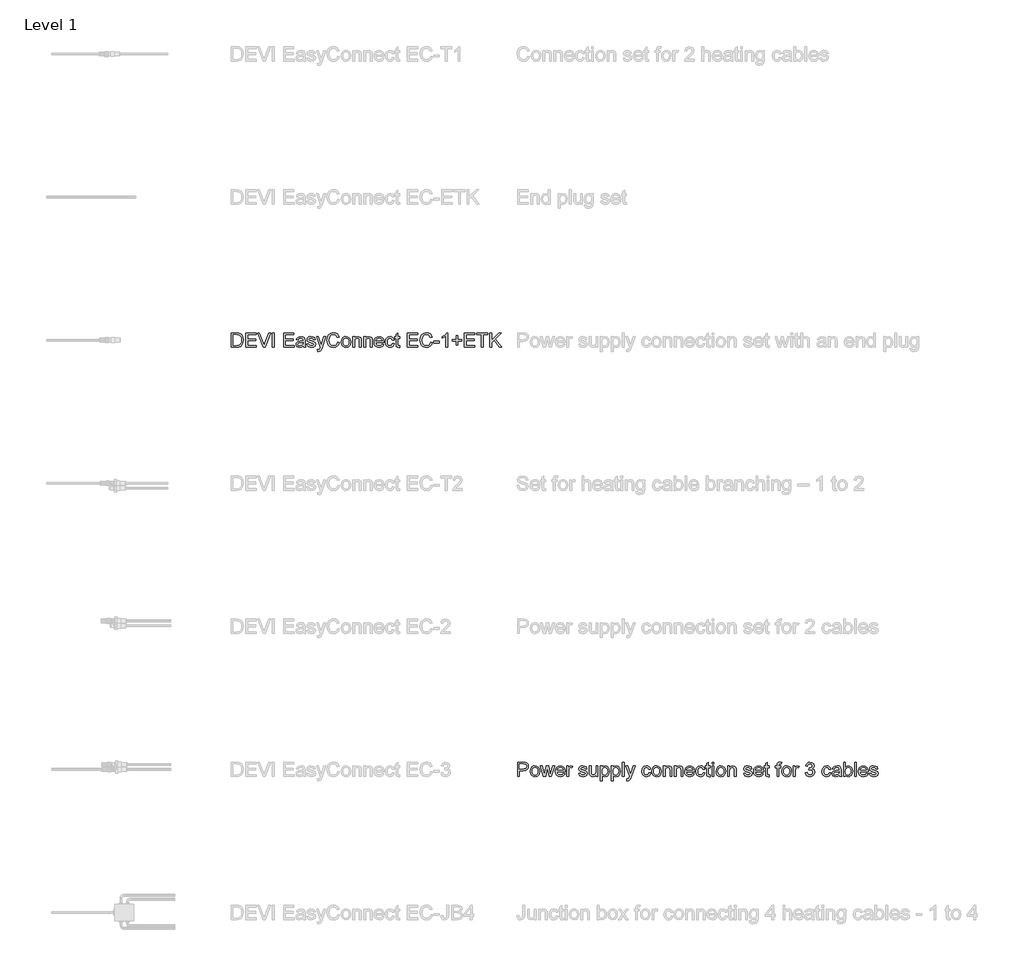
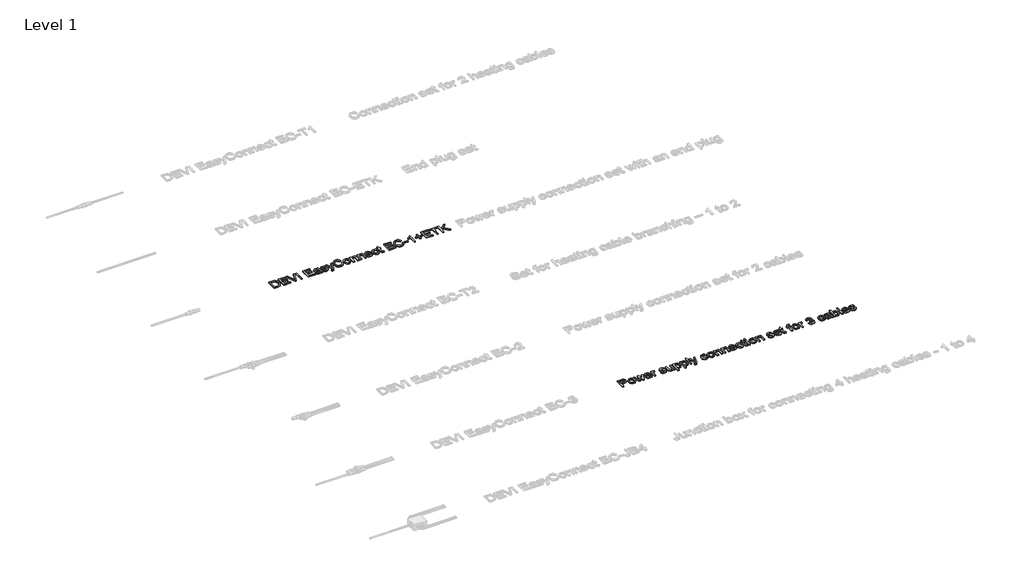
# One storey, part 4 of 11: 2 proxies.
"""IFC4 building model written with IfcOpenShell, lengths in millimetres."""

from ifc_helpers import new_model, si_unit, origin, origin_with_axes, place, context, project, spatial, polyline, outline, extrude, element, save

model = new_model("IFC4")

# Units and contexts
model_context = context("Model", 3, world=origin())
ifc_project = project(units=[si_unit("LENGTHUNIT", "METRE", prefix="MILLI")], contexts=[model_context])

# Site, building, storey
site = spatial("IfcSite", under=ifc_project)
building = spatial("IfcBuilding", under=site)
storey = spatial("IfcBuildingStorey", under=building, Name="Level 1", Elevation=0.0)

# Proxies
placement = place(None, origin())
element("IfcBuildingElementProxy", 1, Name="100mm Arial", ObjectType="100mm Arial", at=placement, inside=storey, context=model_context, shape_type="SweptSolid", body=[
    extrude(outline(polyline([(2544.9544754, 3516.7341496), (2544.9544754, 3617.1904598), (2579.6089593, 3617.1904598), (2597.5370752, 3615.7434572), (2612.3014059, 3608.5574956), (2624.1962571, 3591.3896692), (2628.1448572, 3567.5018649), (2625.4715814, 3547.231567), (2618.6044508, 3532.6021263), (2609.4319264, 3523.4909156), (2597.4267106, 3518.4509323), (2581.276691, 3516.7341496), (2544.9544754, 3516.7341496)]), holes=[polyline([(2557.5115141, 3529.2911884), (2579.7315866, 3529.2911884), (2595.893869, 3531.1060729), (2605.2135462, 3536.2318954), (2612.8532289, 3548.703095), (2615.5878184, 3567.6980687), (2614.2481148, 3581.3832789), (2610.229004, 3591.487771), (2597.1937187, 3602.6223328), (2579.3882301, 3604.633421), (2557.5115141, 3604.633421), (2557.5115141, 3529.2911884)])]), origin_with_axes(), (0.0, 0.0, 1.0), 10.0),
    extrude(outline(polyline([(2645.4107855, 3516.7341496), (2645.4107855, 3617.1904598), (2717.6137584, 3617.1904598), (2717.6137584, 3604.633421), (2657.9678243, 3604.633421), (2657.9678243, 3574.8104539), (2714.4744987, 3574.8104539), (2714.4744987, 3562.2534151), (2657.9678243, 3562.2534151), (2657.9678243, 3529.2911884), (2719.1833883, 3529.2911884), (2719.1833883, 3516.7341496), (2645.4107855, 3516.7341496)])), origin_with_axes(), (0.0, 0.0, 1.0), 10.0),
    extrude(outline(polyline([(2767.6947607, 3516.7341496), (2727.7182506, 3617.1904598), (2741.1582061, 3617.1904598), (2767.9154899, 3544.8158086), (2773.335618, 3528.5063735), (2778.6821696, 3544.8158086), (2805.5130298, 3617.1904598), (2818.9529854, 3617.1904598), (2780.6687324, 3516.7341496), (2767.6947607, 3516.7341496)])), origin_with_axes(), (0.0, 0.0, 1.0), 10.0),
    extrude(outline(polyline([(2832.1967372, 3516.7341496), (2832.1967372, 3617.1904598), (2844.753776, 3617.1904598), (2844.753776, 3516.7341496), (2832.1967372, 3516.7341496)])), origin_with_axes(), (0.0, 0.0, 1.0), 10.0),
    extrude(outline(polyline([(2909.1085996, 3516.7341496), (2909.1085996, 3617.1904598), (2981.3115726, 3617.1904598), (2981.3115726, 3604.633421), (2921.6656384, 3604.633421), (2921.6656384, 3574.8104539), (2978.1723129, 3574.8104539), (2978.1723129, 3562.2534151), (2921.6656384, 3562.2534151), (2921.6656384, 3529.2911884), (2982.8812024, 3529.2911884), (2982.8812024, 3516.7341496), (2909.1085996, 3516.7341496)])), origin_with_axes(), (0.0, 0.0, 1.0), 10.0),
    extrude(outline(polyline([(3047.2360261, 3526.1519287), (3035.0591321, 3517.6415919), (3021.6069138, 3515.1645198), (3011.1130799, 3516.6544418), (3003.3722295, 3521.1242081), (2998.5989607, 3527.9116309), (2997.007871, 3536.3545227), (2999.4113667, 3546.2873366), (3005.7266743, 3553.4978237), (3014.519054, 3557.618102), (3025.3838356, 3559.5065629), (3047.1624497, 3563.823045), (3047.2360261, 3566.6189482), (3043.7779353, 3575.8895744), (3029.8965214, 3579.5193435), (3017.1923298, 3577.103585), (3011.1345396, 3568.5319345), (2998.5775009, 3570.1015644), (3004.0098917, 3582.3642975), (3014.9482497, 3589.5502592), (3031.5152022, 3592.0763822), (3046.733254, 3589.8445648), (3055.32943, 3584.2404957), (3059.1799282, 3575.7178962), (3059.7930649, 3564.7304872), (3059.7930649, 3549.1077652), (3060.430727, 3527.2923629), (3062.9323246, 3516.7341496), (3050.3752858, 3516.7341496), (3047.2360261, 3526.1519287)]), holes=[polyline([(3047.2360261, 3551.2660062), (3026.9779909, 3547.415508), (3016.174523, 3545.3798943), (3011.2816924, 3542.0689563), (3009.5649098, 3537.2374395), (3013.3050434, 3530.4438853), (3024.2801896, 3527.7215585), (3036.9843812, 3530.7259282), (3045.1758869, 3537.9977289), (3047.1624497, 3547.7098136), (3047.2360261, 3551.2660062)])]), origin_with_axes(), (0.0, 0.0, 1.0), 10.0),
    extrude(outline(polyline([(3072.3501036, 3538.7089675), (3084.9071424, 3540.2785973), (3090.7196779, 3530.9589201), (3104.0370062, 3527.7215585), (3116.8392996, 3530.68914), (3121.0086289, 3537.6543724), (3116.8147741, 3543.2952297), (3103.8898534, 3546.8759477), (3084.9807188, 3553.0195771), (3076.7278994, 3560.193276), (3073.9197335, 3570.3222936), (3076.1760764, 3579.678759), (3082.3319684, 3586.8279324), (3090.3150077, 3590.5435406), (3101.1184757, 3592.0763822), (3116.3978412, 3589.6115729), (3126.1099259, 3582.940646), (3130.4264079, 3571.6711942), (3117.8693692, 3570.1015644), (3113.1482169, 3577.0300086), (3102.0994943, 3579.5193435), (3090.0820158, 3577.1403732), (3086.4767723, 3571.5976178), (3087.9728257, 3567.9433233), (3092.6571898, 3565.1719456), (3103.4729204, 3562.4986698), (3121.9038084, 3556.5880324), (3130.4631961, 3549.8925801), (3133.5656676, 3538.9787476), (3129.9236359, 3526.9612691), (3119.4144736, 3518.2424658), (3103.8653279, 3515.1645198), (3091.2040559, 3516.6483105), (3081.9640864, 3521.0996826), (3075.7959317, 3528.4695853), (3072.3501036, 3538.7089675)])), origin_with_axes(), (0.0, 0.0, 1.0), 10.0),
    extrude(outline(polyline([(3147.6923363, 3488.4808124), (3146.1227064, 3500.5718673), (3152.4993277, 3499.4682213), (3158.459016, 3500.8539102), (3162.1133105, 3504.7166711), (3165.5468758, 3513.9627719), (3166.5278944, 3517.0039297), (3139.844187, 3590.5067524), (3153.0879388, 3590.5067524), (3167.2391329, 3549.5492236), (3172.1687517, 3533.1662121), (3177.0983704, 3547.6362372), (3191.6419719, 3590.5067524), (3204.7876219, 3590.5067524), (3179.1094586, 3514.968316), (3172.4385318, 3498.5853045), (3165.1544683, 3489.7316112), (3155.3688072, 3486.9111825), (3147.6923363, 3488.4808124)])), origin_with_axes(), (0.0, 0.0, 1.0), 10.0),
    extrude(outline(polyline([(3287.3893926, 3552.4432286), (3299.9464313, 3549.2058671), (3294.1522899, 3534.5733607), (3285.0594733, 3523.883323), (3273.1155711, 3517.3442206), (3258.7681733, 3515.1645198), (3244.203112, 3516.8138574), (3232.6362889, 3521.7618702), (3223.7703329, 3529.83688), (3217.3078725, 3540.8672085), (3212.0471599, 3567.7225941), (3213.5340163, 3582.3704289), (3217.9945855, 3595.0194382), (3225.1958756, 3605.2680174), (3234.9048946, 3612.7145622), (3246.419601, 3617.2487077), (3259.0379535, 3618.7600896), (3272.8059371, 3616.8041837), (3284.1888192, 3610.9364658), (3292.8309804, 3601.5186868), (3298.3768015, 3588.9125971), (3285.8197627, 3585.9204902), (3275.5190668, 3601.3592712), (3258.5474441, 3606.2030508), (3238.9025456, 3600.8319737), (3227.8047721, 3586.4109995), (3224.6041987, 3567.7471196), (3228.3933833, 3546.1156583), (3240.1901326, 3532.295558), (3257.5173745, 3527.7215585), (3267.9989457, 3529.2789256), (3276.7330774, 3533.951027), (3283.3273622, 3541.6888116), (3287.3893926, 3552.4432286)])), origin_with_axes(), (0.0, 0.0, 1.0), 10.0),
    extrude(outline(polyline([(3312.5034701, 3553.620451), (3315.2196655, 3571.4075455), (3323.3682517, 3583.9094019), (3333.4359556, 3590.0346371), (3345.4902223, 3592.0763822), (3358.6818575, 3589.5901131), (3369.218611, 3582.1313056), (3376.1255955, 3570.2885711), (3378.4279236, 3554.6505206), (3374.3566962, 3532.3078207), (3362.4986332, 3519.6649428), (3345.4902223, 3515.1645198), (3332.1391716, 3517.6415919), (3321.6146808, 3525.0728082), (3314.7812728, 3537.1638631), (3312.5034701, 3553.620451)]), holes=[polyline([(3325.0605089, 3553.6449765), (3326.5136427, 3542.2804885), (3330.8730444, 3534.1840189), (3337.4336066, 3529.3371736), (3345.4902223, 3527.7215585), (3353.5100498, 3529.3463707), (3360.0583493, 3534.2208071), (3364.417751, 3542.4245756), (3365.8708849, 3554.0373839), (3364.4085539, 3565.0707781), (3360.0215611, 3573.0568831), (3353.4640646, 3577.9037284), (3345.4902223, 3579.5193435), (3337.4336066, 3577.9098597), (3330.8730444, 3573.0814085), (3326.5136427, 3565.0033331), (3325.0605089, 3553.6449765)])]), origin_with_axes(), (0.0, 0.0, 1.0), 10.0),
    extrude(outline(polyline([(3392.5545922, 3516.7341496), (3392.5545922, 3590.5067524), (3405.111631, 3590.5067524), (3405.111631, 3580.2060565), (3414.7133511, 3589.1088008), (3427.8222128, 3592.0763822), (3439.6802758, 3589.6851493), (3447.7736797, 3583.4066299), (3451.5383388, 3574.1727918), (3452.2005264, 3562.0326859), (3452.2005264, 3516.7341496), (3439.6434876, 3516.7341496), (3439.6434876, 3560.3404288), (3438.1964851, 3571.450465), (3433.0829254, 3577.3243142), (3424.462224, 3579.5193435), (3410.8383274, 3574.5897247), (3406.5433051, 3567.4466826), (3405.111631, 3555.8767939), (3405.111631, 3516.7341496), (3392.5545922, 3516.7341496)])), origin_with_axes(), (0.0, 0.0, 1.0), 10.0),
    extrude(outline(polyline([(3469.4664547, 3516.7341496), (3469.4664547, 3590.5067524), (3482.0234935, 3590.5067524), (3482.0234935, 3580.2060565), (3491.6252135, 3589.1088008), (3504.7340753, 3592.0763822), (3516.5921383, 3589.6851493), (3524.6855422, 3583.4066299), (3528.4502013, 3574.1727918), (3529.1123889, 3562.0326859), (3529.1123889, 3516.7341496), (3516.5553501, 3516.7341496), (3516.5553501, 3560.3404288), (3515.1083476, 3571.450465), (3509.9947878, 3577.3243142), (3501.3740864, 3579.5193435), (3487.7501899, 3574.5897247), (3483.4551676, 3567.4466826), (3482.0234935, 3555.8767939), (3482.0234935, 3516.7341496), (3469.4664547, 3516.7341496)])), origin_with_axes(), (0.0, 0.0, 1.0), 10.0),
    extrude(outline(polyline([(3598.0289493, 3538.7089675), (3610.3407334, 3537.1393376), (3605.9046897, 3527.86258), (3598.8260269, 3520.9280044), (3589.2641607, 3516.6053909), (3577.3785066, 3515.1645198), (3562.6448327, 3517.6507889), (3551.3079359, 3525.1095964), (3544.0790547, 3537.0565642), (3541.6694276, 3553.0073143), (3544.1035802, 3569.4945591), (3551.4060378, 3581.8247373), (3562.5896504, 3589.513471), (3576.6672681, 3592.0763822), (3590.3064931, 3589.5196024), (3601.2049972, 3581.8492628), (3608.3511049, 3569.54361), (3610.7331408, 3553.0808907), (3610.6595645, 3549.6963764), (3554.2264664, 3549.6963764), (3556.4000358, 3540.2969914), (3561.4492162, 3533.3869413), (3568.7363454, 3529.1379042), (3577.6237613, 3527.7215585), (3589.9355454, 3530.3457834), (3598.0289493, 3538.7089675)]), holes=[polyline([(3554.2264664, 3562.2534151), (3598.1761021, 3562.2534151), (3593.1483815, 3573.6332315), (3585.8275298, 3578.0478155), (3576.6182172, 3579.5193435), (3561.1549106, 3574.8227166), (3556.2896712, 3569.3320779), (3554.2264664, 3562.2534151)])]), origin_with_axes(), (0.0, 0.0, 1.0), 10.0),
    extrude(outline(polyline([(3670.379075, 3543.417857), (3682.9361138, 3541.8482271), (3679.4351034, 3530.6799429), (3672.8561471, 3522.2401168), (3663.8185128, 3516.933419), (3652.9414684, 3515.1645198), (3639.5842863, 3517.6323948), (3629.1395033, 3525.03602), (3622.3980658, 3537.0504328), (3620.1509199, 3553.3506709), (3623.9891554, 3574.20958), (3635.6878029, 3587.6127473), (3652.7697902, 3592.0763822), (3663.38012, 3590.5435406), (3671.8628657, 3585.9450156), (3677.9482471, 3578.5260621), (3681.3664839, 3568.5319345), (3668.8094452, 3566.9623047), (3662.9846469, 3576.367821), (3652.867892, 3579.5193435), (3644.7530284, 3577.9681077), (3638.3120278, 3573.3144005), (3634.108976, 3565.3068357), (3632.7079587, 3553.6940274), (3634.0783191, 3541.9248692), (3638.1894004, 3533.8897133), (3644.5139051, 3529.2635972), (3652.5245355, 3527.7215585), (3664.358073, 3531.5720567), (3670.379075, 3543.417857)])), origin_with_axes(), (0.0, 0.0, 1.0), 10.0),
    extrude(outline(polyline([(3720.6072301, 3527.2065237), (3722.1768599, 3516.3662676), (3712.7836063, 3515.1645198), (3702.2621812, 3517.2491844), (3697.0137315, 3522.7183634), (3695.4931525, 3536.9676593), (3695.4931525, 3577.9497136), (3686.0753735, 3577.9497136), (3686.0753735, 3590.5067524), (3695.4931525, 3590.5067524), (3695.4931525, 3608.4348683), (3708.0501913, 3615.8170336), (3708.0501913, 3590.5067524), (3720.6072301, 3590.5067524), (3720.6072301, 3577.9497136), (3708.0501913, 3577.9497136), (3708.0501913, 3537.3355413), (3708.7123789, 3530.8608182), (3710.8583572, 3528.5676871), (3715.1380511, 3527.7215585), (3720.6072301, 3527.2065237)])), origin_with_axes(), (0.0, 0.0, 1.0), 10.0),
    extrude(outline(polyline([(3773.9746448, 3516.7341496), (3773.9746448, 3617.1904598), (3846.1776178, 3617.1904598), (3846.1776178, 3604.633421), (3786.5316836, 3604.633421), (3786.5316836, 3574.8104539), (3843.0383581, 3574.8104539), (3843.0383581, 3562.2534151), (3786.5316836, 3562.2534151), (3786.5316836, 3529.2911884), (3847.7472476, 3529.2911884), (3847.7472476, 3516.7341496), (3773.9746448, 3516.7341496)])), origin_with_axes(), (0.0, 0.0, 1.0), 10.0),
    extrude(outline(polyline([(3937.2161488, 3552.4432286), (3949.7731876, 3549.2058671), (3943.9790462, 3534.5733607), (3934.8862295, 3523.883323), (3922.9423274, 3517.3442206), (3908.5949296, 3515.1645198), (3894.0298683, 3516.8138574), (3882.4630452, 3521.7618702), (3873.5970891, 3529.83688), (3867.1346288, 3540.8672085), (3861.8739162, 3567.7225941), (3863.3607726, 3582.3704289), (3867.8213418, 3595.0194382), (3875.0226319, 3605.2680174), (3884.7316509, 3612.7145622), (3896.2463573, 3617.2487077), (3908.8647097, 3618.7600896), (3922.6326934, 3616.8041837), (3934.0155755, 3610.9364658), (3942.6577367, 3601.5186868), (3948.2035578, 3588.9125971), (3935.646519, 3585.9204902), (3925.3458231, 3601.3592712), (3908.3742004, 3606.2030508), (3888.7293019, 3600.8319737), (3877.6315284, 3586.4109995), (3874.430955, 3567.7471196), (3878.2201395, 3546.1156583), (3890.0168889, 3532.295558), (3907.3441308, 3527.7215585), (3917.825702, 3529.2789256), (3926.5598337, 3533.951027), (3933.1541185, 3541.6888116), (3937.2161488, 3552.4432286)])), origin_with_axes(), (0.0, 0.0, 1.0), 10.0),
    extrude(outline(polyline([(3959.1909667, 3546.5571167), (3959.1909667, 3559.1141555), (3998.4317128, 3559.1141555), (3998.4317128, 3546.5571167), (3959.1909667, 3546.5571167)])), origin_with_axes(), (0.0, 0.0, 1.0), 10.0),
    extrude(outline(polyline([(4056.5080171, 3516.7341496), (4043.9509784, 3516.7341496), (4043.9509784, 3595.0194382), (4032.0561272, 3586.5458896), (4018.8369008, 3580.2060565), (4018.8369008, 3592.0763822), (4037.2432633, 3603.8240806), (4048.4146132, 3617.1904598), (4056.5080171, 3617.1904598), (4056.5080171, 3516.7341496)])), origin_with_axes(), (0.0, 0.0, 1.0), 10.0),
    extrude(outline(polyline([(4114.5843214, 3532.4304481), (4114.5843214, 3559.1141555), (4087.9006141, 3559.1141555), (4087.9006141, 3571.6711942), (4114.5843214, 3571.6711942), (4114.5843214, 3598.3549016), (4127.1413602, 3598.3549016), (4127.1413602, 3571.6711942), (4153.8250676, 3571.6711942), (4153.8250676, 3559.1141555), (4127.1413602, 3559.1141555), (4127.1413602, 3532.4304481), (4114.5843214, 3532.4304481)])), origin_with_axes(), (0.0, 0.0, 1.0), 10.0),
    extrude(outline(polyline([(4172.6606257, 3516.7341496), (4172.6606257, 3617.1904598), (4244.8635987, 3617.1904598), (4244.8635987, 3604.633421), (4185.2176645, 3604.633421), (4185.2176645, 3574.8104539), (4241.724339, 3574.8104539), (4241.724339, 3562.2534151), (4185.2176645, 3562.2534151), (4185.2176645, 3529.2911884), (4246.4332285, 3529.2911884), (4246.4332285, 3516.7341496), (4172.6606257, 3516.7341496)])), origin_with_axes(), (0.0, 0.0, 1.0), 10.0),
    extrude(outline(polyline([(4290.3828642, 3516.7341496), (4290.3828642, 3604.633421), (4257.4206374, 3604.633421), (4257.4206374, 3617.1904598), (4335.9021297, 3617.1904598), (4335.9021297, 3604.633421), (4302.939903, 3604.633421), (4302.939903, 3516.7341496), (4290.3828642, 3516.7341496)])), origin_with_axes(), (0.0, 0.0, 1.0), 10.0),
    extrude(outline(polyline([(4350.0287984, 3516.7341496), (4350.0287984, 3617.1904598), (4362.5858371, 3617.1904598), (4362.5858371, 3568.0168997), (4414.0893165, 3617.1904598), (4431.6495504, 3617.1904598), (4388.4111532, 3575.8895744), (4433.2191802, 3516.7341496), (4417.8662383, 3516.7341496), (4379.5084089, 3567.4037631), (4362.5858371, 3551.2660062), (4362.5858371, 3516.7341496), (4350.0287984, 3516.7341496)])), origin_with_axes(), (0.0, 0.0, 1.0), 10.0),
])
element("IfcBuildingElementProxy", 2, Name="100mm Arial", ObjectType="100mm Arial", at=placement, inside=storey, context=model_context, shape_type="SweptSolid", body=[
    extrude(outline(polyline([(4544.9544754, 516.7341496), (4544.9544754, 617.1904598), (4582.1841333, 617.1904598), (4597.1937187, 616.2339666), (4609.3951382, 611.5373398), (4617.3046011, 601.8252551), (4620.296708, 588.1277821), (4618.2764227, 576.2881133), (4612.2155668, 566.4227444), (4600.8817357, 559.7640803), (4583.0425246, 557.5445256), (4557.5115141, 557.5445256), (4557.5115141, 516.7341496), (4544.9544754, 516.7341496)]), holes=[polyline([(4557.5115141, 570.1015644), (4583.7782886, 570.1015644), (4602.2704902, 574.712352), (4606.3723745, 580.2612388), (4607.7396692, 587.6863237), (4604.5145704, 598.0851215), (4596.0410218, 603.7750297), (4583.483983, 604.633421), (4557.5115141, 604.633421), (4557.5115141, 570.1015644)])]), origin_with_axes(), (0.0, 0.0, 1.0), 10.0),
    extrude(outline(polyline([(4632.8537467, 553.620451), (4635.5699421, 571.4075455), (4643.7185283, 583.9094019), (4653.7862323, 590.0346371), (4665.840499, 592.0763822), (4679.0321342, 589.5901131), (4689.5688877, 582.1313056), (4696.4758721, 570.2885711), (4698.7782003, 554.6505206), (4694.7069729, 532.3078207), (4682.8489099, 519.6649428), (4665.840499, 515.1645198), (4652.4894482, 517.6415919), (4641.9649575, 525.0728082), (4635.1315494, 537.1638631), (4632.8537467, 553.620451)]), holes=[polyline([(4645.4107855, 553.6449765), (4646.8639194, 542.2804885), (4651.223321, 534.1840189), (4657.7838833, 529.3371736), (4665.840499, 527.7215585), (4673.8603265, 529.3463707), (4680.408626, 534.2208071), (4684.7680276, 542.4245756), (4686.2211615, 554.0373839), (4684.7588306, 565.0707781), (4680.3718378, 573.0568831), (4673.8143412, 577.9037284), (4665.840499, 579.5193435), (4657.7838833, 577.9098597), (4651.223321, 573.0814085), (4646.8639194, 565.0033331), (4645.4107855, 553.6449765)])]), origin_with_axes(), (0.0, 0.0, 1.0), 10.0),
    extrude(outline(polyline([(4725.1430766, 516.7341496), (4702.7022749, 590.5067524), (4715.749823, 590.5067524), (4728.47854, 547.4645589), (4732.2799873, 532.0870915), (4735.3947215, 546.9004732), (4745.5237391, 590.5067524), (4760.4842736, 590.5067524), (4770.5642403, 547.0231005), (4773.335618, 533.6076705), (4777.3087435, 547.7588645), (4790.061986, 590.5067524), (4803.158585, 590.5067524), (4780.5461051, 516.7341496), (4765.3648414, 516.7341496), (4755.7263331, 559.9970722), (4752.93043, 573.4860787), (4740.4960185, 516.7341496), (4725.1430766, 516.7341496)])), origin_with_axes(), (0.0, 0.0, 1.0), 10.0),
    extrude(outline(polyline([(4863.4421813, 538.7089675), (4875.7539654, 537.1393376), (4871.3179217, 527.86258), (4864.239259, 520.9280044), (4854.6773928, 516.6053909), (4842.7917387, 515.1645198), (4828.0580647, 517.6507889), (4816.7211679, 525.1095964), (4809.4922867, 537.0565642), (4807.0826597, 553.0073143), (4809.5168122, 569.4945591), (4816.8192698, 581.8247373), (4828.0028824, 589.513471), (4842.0805001, 592.0763822), (4855.7197251, 589.5196024), (4866.6182292, 581.8492628), (4873.764337, 569.54361), (4876.1463729, 553.0808907), (4876.0727965, 549.6963764), (4819.6396984, 549.6963764), (4821.8132679, 540.2969914), (4826.8624483, 533.3869413), (4834.1495774, 529.1379042), (4843.0369933, 527.7215585), (4855.3487774, 530.3457834), (4863.4421813, 538.7089675)]), holes=[polyline([(4819.6396984, 562.2534151), (4863.5893341, 562.2534151), (4858.5616135, 573.6332315), (4851.2407618, 578.0478155), (4842.0314492, 579.5193435), (4826.5681427, 574.8227166), (4821.7029033, 569.3320779), (4819.6396984, 562.2534151)])]), origin_with_axes(), (0.0, 0.0, 1.0), 10.0),
    extrude(outline(polyline([(4888.7034116, 516.7341496), (4888.7034116, 590.5067524), (4899.6908206, 590.5067524), (4899.6908206, 579.5929199), (4907.4899189, 589.6483611), (4915.3380681, 592.0763822), (4927.9441578, 588.2013585), (4923.7503031, 576.9441695), (4914.9211352, 579.5193435), (4907.8210127, 577.0422714), (4903.2960641, 570.1751408), (4901.2604504, 555.5089119), (4901.2604504, 516.7341496), (4888.7034116, 516.7341496)])), origin_with_axes(), (0.0, 0.0, 1.0), 10.0),
    extrude(outline(polyline([(4970.3241636, 538.7089675), (4982.8812024, 540.2785973), (4988.6937379, 530.9589201), (5002.0110662, 527.7215585), (5014.8133596, 530.68914), (5018.9826889, 537.6543724), (5014.7888341, 543.2952297), (5001.8639134, 546.8759477), (4982.9547788, 553.0195771), (4974.7019594, 560.193276), (4971.8937935, 570.3222936), (4974.1501364, 579.678759), (4980.3060284, 586.8279324), (4988.2890677, 590.5435406), (4999.0925357, 592.0763822), (5014.3719012, 589.6115729), (5024.0839859, 582.940646), (5028.400468, 571.6711942), (5015.8434292, 570.1015644), (5011.1222769, 577.0300086), (5000.0735543, 579.5193435), (4988.0560758, 577.1403732), (4984.4508323, 571.5976178), (4985.9468857, 567.9433233), (4990.6312498, 565.1719456), (5001.4469804, 562.4986698), (5019.8778684, 556.5880324), (5028.4372562, 549.8925801), (5031.5397276, 538.9787476), (5027.8976959, 526.9612691), (5017.3885336, 518.2424658), (5001.8393879, 515.1645198), (4989.1781159, 516.6483105), (4979.9381465, 521.0996826), (4973.7699917, 528.4695853), (4970.3241636, 538.7089675)])), origin_with_axes(), (0.0, 0.0, 1.0), 10.0),
    extrude(outline(polyline([(5092.7552916, 516.7341496), (5092.7552916, 529.4138157), (5082.9205796, 518.7268438), (5070.0937607, 515.1645198), (5058.2847487, 517.6661173), (5050.1422939, 523.9446367), (5046.4021602, 533.1907375), (5045.6663963, 544.8648595), (5045.6663963, 590.5067524), (5058.223435, 590.5067524), (5058.223435, 550.7754969), (5058.9837245, 537.9732035), (5063.9501314, 530.456148), (5073.3065968, 527.7215585), (5083.7912337, 530.5174617), (5090.7196779, 538.132619), (5092.7552916, 552.1243975), (5092.7552916, 590.5067524), (5105.3123304, 590.5067524), (5105.3123304, 516.7341496), (5092.7552916, 516.7341496)])), origin_with_axes(), (0.0, 0.0, 1.0), 10.0),
    extrude(outline(polyline([(5122.5782587, 488.4808124), (5122.5782587, 590.5067524), (5135.1352975, 590.5067524), (5135.1352975, 578.1949683), (5143.8173126, 588.6060287), (5155.5404855, 592.0763822), (5171.4575131, 587.2203399), (5181.8563109, 573.5351297), (5185.3634526, 554.1845367), (5181.4025897, 533.8406624), (5169.900146, 519.9837739), (5154.0199066, 515.1645198), (5143.0938113, 518.3896186), (5135.1352975, 526.5443361), (5135.1352975, 488.4808124), (5122.5782587, 488.4808124)]), holes=[polyline([(5135.1352975, 553.0318398), (5136.4933952, 541.7746507), (5140.5676883, 533.9019761), (5146.5794932, 529.2666629), (5153.7501264, 527.7215585), (5161.0372556, 529.3218452), (5167.2023447, 534.1227052), (5171.4053965, 542.2835542), (5172.8064138, 553.9638075), (5171.439119, 565.1596829), (5167.3372348, 573.1427222), (5161.3346269, 577.9251881), (5154.2651612, 579.5193435), (5147.1681044, 577.8240206), (5140.9355703, 572.738052), (5136.5853657, 564.4208532), (5135.1352975, 553.0318398)])]), origin_with_axes(), (0.0, 0.0, 1.0), 10.0),
    extrude(outline(polyline([(5199.4901212, 488.4808124), (5199.4901212, 590.5067524), (5212.0471599, 590.5067524), (5212.0471599, 578.1949683), (5220.729175, 588.6060287), (5232.4523479, 592.0763822), (5248.3693756, 587.2203399), (5258.7681733, 573.5351297), (5262.275315, 554.1845367), (5258.3144522, 533.8406624), (5246.8120085, 519.9837739), (5230.931769, 515.1645198), (5220.0056738, 518.3896186), (5212.0471599, 526.5443361), (5212.0471599, 488.4808124), (5199.4901212, 488.4808124)]), holes=[polyline([(5212.0471599, 553.0318398), (5213.4052576, 541.7746507), (5217.4795507, 533.9019761), (5223.4913557, 529.2666629), (5230.6619889, 527.7215585), (5237.9491181, 529.3218452), (5244.1142072, 534.1227052), (5248.317259, 542.2835542), (5249.7182762, 553.9638075), (5248.3509815, 565.1596829), (5244.2490973, 573.1427222), (5238.2464894, 577.9251881), (5231.1770237, 579.5193435), (5224.0799669, 577.8240206), (5217.8474327, 572.738052), (5213.4972281, 564.4208532), (5212.0471599, 553.0318398)])]), origin_with_axes(), (0.0, 0.0, 1.0), 10.0),
    extrude(outline(polyline([(5276.4019836, 516.7341496), (5276.4019836, 617.1904598), (5288.9590224, 617.1904598), (5288.9590224, 516.7341496), (5276.4019836, 516.7341496)])), origin_with_axes(), (0.0, 0.0, 1.0), 10.0),
    extrude(outline(polyline([(5307.7945806, 488.4808124), (5306.2249507, 500.5718673), (5312.601572, 499.4682213), (5318.5612603, 500.8539102), (5322.2155548, 504.7166711), (5325.6491201, 513.9627719), (5326.6301387, 517.0039297), (5299.9464313, 590.5067524), (5313.1901832, 590.5067524), (5327.3413772, 549.5492236), (5332.270996, 533.1662121), (5337.2006147, 547.6362372), (5351.7442162, 590.5067524), (5364.8898662, 590.5067524), (5339.2117029, 514.968316), (5332.5407761, 498.5853045), (5325.2567126, 489.7316112), (5315.4710515, 486.9111825), (5307.7945806, 488.4808124)])), origin_with_axes(), (0.0, 0.0, 1.0), 10.0),
    extrude(outline(polyline([(5461.6183055, 543.417857), (5474.1753442, 541.8482271), (5470.6743339, 530.6799429), (5464.0953776, 522.2401168), (5455.0577432, 516.933419), (5444.1806989, 515.1645198), (5430.8235168, 517.6323948), (5420.3787338, 525.03602), (5413.6372963, 537.0504328), (5411.3901504, 553.3506709), (5415.2283859, 574.20958), (5426.9270333, 587.6127473), (5444.0090206, 592.0763822), (5454.6193505, 590.5435406), (5463.1020962, 585.9450156), (5469.1874775, 578.5260621), (5472.6057144, 568.5319345), (5460.0486756, 566.9623047), (5454.2238774, 576.367821), (5444.1071225, 579.5193435), (5435.9922588, 577.9681077), (5429.5512582, 573.3144005), (5425.3482064, 565.3068357), (5423.9471892, 553.6940274), (5425.3175496, 541.9248692), (5429.4286309, 533.8897133), (5435.7531355, 529.2635972), (5443.763766, 527.7215585), (5455.5973035, 531.5720567), (5461.6183055, 543.417857)])), origin_with_axes(), (0.0, 0.0, 1.0), 10.0),
    extrude(outline(polyline([(5482.0234935, 553.620451), (5484.7396889, 571.4075455), (5492.8882751, 583.9094019), (5502.955979, 590.0346371), (5515.0102457, 592.0763822), (5528.2018809, 589.5901131), (5538.7386344, 582.1313056), (5545.6456189, 570.2885711), (5547.947947, 554.6505206), (5543.8767196, 532.3078207), (5532.0186566, 519.6649428), (5515.0102457, 515.1645198), (5501.659195, 517.6415919), (5491.1347042, 525.0728082), (5484.3012962, 537.1638631), (5482.0234935, 553.620451)]), holes=[polyline([(5494.5805322, 553.6449765), (5496.0336661, 542.2804885), (5500.3930678, 534.1840189), (5506.95363, 529.3371736), (5515.0102457, 527.7215585), (5523.0300732, 529.3463707), (5529.5783727, 534.2208071), (5533.9377744, 542.4245756), (5535.3909082, 554.0373839), (5533.9285773, 565.0707781), (5529.5415845, 573.0568831), (5522.984088, 577.9037284), (5515.0102457, 579.5193435), (5506.95363, 577.9098597), (5500.3930678, 573.0814085), (5496.0336661, 565.0033331), (5494.5805322, 553.6449765)])]), origin_with_axes(), (0.0, 0.0, 1.0), 10.0),
    extrude(outline(polyline([(5562.0746156, 516.7341496), (5562.0746156, 590.5067524), (5574.6316544, 590.5067524), (5574.6316544, 580.2060565), (5584.2333745, 589.1088008), (5597.3422362, 592.0763822), (5609.2002992, 589.6851493), (5617.2937031, 583.4066299), (5621.0583622, 574.1727918), (5621.7205498, 562.0326859), (5621.7205498, 516.7341496), (5609.163511, 516.7341496), (5609.163511, 560.3404288), (5607.7165085, 571.450465), (5602.6029488, 577.3243142), (5593.9822473, 579.5193435), (5580.3583508, 574.5897247), (5576.0633285, 567.4466826), (5574.6316544, 555.8767939), (5574.6316544, 516.7341496), (5562.0746156, 516.7341496)])), origin_with_axes(), (0.0, 0.0, 1.0), 10.0),
    extrude(outline(polyline([(5638.9864781, 516.7341496), (5638.9864781, 590.5067524), (5651.5435168, 590.5067524), (5651.5435168, 580.2060565), (5661.1452369, 589.1088008), (5674.2540987, 592.0763822), (5686.1121617, 589.6851493), (5694.2055656, 583.4066299), (5697.9702246, 574.1727918), (5698.6324122, 562.0326859), (5698.6324122, 516.7341496), (5686.0753735, 516.7341496), (5686.0753735, 560.3404288), (5684.6283709, 571.450465), (5679.5148112, 577.3243142), (5670.8941098, 579.5193435), (5657.2702132, 574.5897247), (5652.9751909, 567.4466826), (5651.5435168, 555.8767939), (5651.5435168, 516.7341496), (5638.9864781, 516.7341496)])), origin_with_axes(), (0.0, 0.0, 1.0), 10.0),
    extrude(outline(polyline([(5767.5489727, 538.7089675), (5779.8607568, 537.1393376), (5775.424713, 527.86258), (5768.3460503, 520.9280044), (5758.7841841, 516.6053909), (5746.89853, 515.1645198), (5732.1648561, 517.6507889), (5720.8279593, 525.1095964), (5713.5990781, 537.0565642), (5711.189451, 553.0073143), (5713.6236035, 569.4945591), (5720.9260611, 581.8247373), (5732.1096738, 589.513471), (5746.1872915, 592.0763822), (5759.8265164, 589.5196024), (5770.7250206, 581.8492628), (5777.8711283, 569.54361), (5780.2531642, 553.0808907), (5780.1795878, 549.6963764), (5723.7464898, 549.6963764), (5725.9200592, 540.2969914), (5730.9692396, 533.3869413), (5738.2563688, 529.1379042), (5747.1437847, 527.7215585), (5759.4555688, 530.3457834), (5767.5489727, 538.7089675)]), holes=[polyline([(5723.7464898, 562.2534151), (5767.6961255, 562.2534151), (5762.6684049, 573.6332315), (5755.3475532, 578.0478155), (5746.1382405, 579.5193435), (5730.674934, 574.8227166), (5725.8096946, 569.3320779), (5723.7464898, 562.2534151)])]), origin_with_axes(), (0.0, 0.0, 1.0), 10.0),
    extrude(outline(polyline([(5839.8990984, 543.417857), (5852.4561371, 541.8482271), (5848.9551268, 530.6799429), (5842.3761705, 522.2401168), (5833.3385361, 516.933419), (5822.4614918, 515.1645198), (5809.1043097, 517.6323948), (5798.6595267, 525.03602), (5791.9180892, 537.0504328), (5789.6709433, 553.3506709), (5793.5091788, 574.20958), (5805.2078262, 587.6127473), (5822.2898135, 592.0763822), (5832.9001434, 590.5435406), (5841.3828891, 585.9450156), (5847.4682704, 578.5260621), (5850.8865073, 568.5319345), (5838.3294685, 566.9623047), (5832.5046703, 576.367821), (5822.3879154, 579.5193435), (5814.2730517, 577.9681077), (5807.8320511, 573.3144005), (5803.6289993, 565.3068357), (5802.2279821, 553.6940274), (5803.5983425, 541.9248692), (5807.7094238, 533.8897133), (5814.0339284, 529.2635972), (5822.0445589, 527.7215585), (5833.8780964, 531.5720567), (5839.8990984, 543.417857)])), origin_with_axes(), (0.0, 0.0, 1.0), 10.0),
    extrude(outline(polyline([(5890.1272535, 527.2065237), (5891.6968833, 516.3662676), (5882.3036297, 515.1645198), (5871.7822046, 517.2491844), (5866.5337548, 522.7183634), (5865.0131759, 536.9676593), (5865.0131759, 577.9497136), (5855.5953968, 577.9497136), (5855.5953968, 590.5067524), (5865.0131759, 590.5067524), (5865.0131759, 608.4348683), (5877.5702147, 615.8170336), (5877.5702147, 590.5067524), (5890.1272535, 590.5067524), (5890.1272535, 577.9497136), (5877.5702147, 577.9497136), (5877.5702147, 537.3355413), (5878.2324023, 530.8608182), (5880.3783806, 528.5676871), (5884.6580745, 527.7215585), (5890.1272535, 527.2065237)])), origin_with_axes(), (0.0, 0.0, 1.0), 10.0),
    extrude(outline(polyline([(5902.6842922, 604.633421), (5902.6842922, 617.1904598), (5915.241331, 617.1904598), (5915.241331, 604.633421), (5902.6842922, 604.633421)])), origin_with_axes(), (0.0, 0.0, 1.0), 10.0),
    extrude(outline(polyline([(5902.6842922, 516.7341496), (5902.6842922, 590.5067524), (5915.241331, 590.5067524), (5915.241331, 516.7341496), (5902.6842922, 516.7341496)])), origin_with_axes(), (0.0, 0.0, 1.0), 10.0),
    extrude(outline(polyline([(5930.9376295, 553.620451), (5933.6538248, 571.4075455), (5941.802411, 583.9094019), (5951.870115, 590.0346371), (5963.9243817, 592.0763822), (5977.1160169, 589.5901131), (5987.6527704, 582.1313056), (5994.5597548, 570.2885711), (5996.862083, 554.6505206), (5992.7908556, 532.3078207), (5980.9327926, 519.6649428), (5963.9243817, 515.1645198), (5950.5733309, 517.6415919), (5940.0488402, 525.0728082), (5933.2154321, 537.1638631), (5930.9376295, 553.620451)]), holes=[polyline([(5943.4946682, 553.6449765), (5944.9478021, 542.2804885), (5949.3072037, 534.1840189), (5955.867766, 529.3371736), (5963.9243817, 527.7215585), (5971.9442092, 529.3463707), (5978.4925087, 534.2208071), (5982.8519103, 542.4245756), (5984.3050442, 554.0373839), (5982.8427133, 565.0707781), (5978.4557205, 573.0568831), (5971.8982239, 577.9037284), (5963.9243817, 579.5193435), (5955.867766, 577.9098597), (5949.3072037, 573.0814085), (5944.9478021, 565.0033331), (5943.4946682, 553.6449765)])]), origin_with_axes(), (0.0, 0.0, 1.0), 10.0),
    extrude(outline(polyline([(6010.9887516, 516.7341496), (6010.9887516, 590.5067524), (6023.5457904, 590.5067524), (6023.5457904, 580.2060565), (6033.1475104, 589.1088008), (6046.2563722, 592.0763822), (6058.1144352, 589.6851493), (6066.2078391, 583.4066299), (6069.9724982, 574.1727918), (6070.6346858, 562.0326859), (6070.6346858, 516.7341496), (6058.077647, 516.7341496), (6058.077647, 560.3404288), (6056.6306445, 571.450465), (6051.5170847, 577.3243142), (6042.8963833, 579.5193435), (6029.2724868, 574.5897247), (6024.9774645, 567.4466826), (6023.5457904, 555.8767939), (6023.5457904, 516.7341496), (6010.9887516, 516.7341496)])), origin_with_axes(), (0.0, 0.0, 1.0), 10.0),
    extrude(outline(polyline([(6122.4324707, 538.7089675), (6134.9895094, 540.2785973), (6140.802045, 530.9589201), (6154.1193732, 527.7215585), (6166.9216666, 530.68914), (6171.0909959, 537.6543724), (6166.8971412, 543.2952297), (6153.9722204, 546.8759477), (6135.0630858, 553.0195771), (6126.8102664, 560.193276), (6124.0021005, 570.3222936), (6126.2584434, 579.678759), (6132.4143355, 586.8279324), (6140.3973748, 590.5435406), (6151.2008427, 592.0763822), (6166.4802082, 589.6115729), (6176.1922929, 582.940646), (6180.508775, 571.6711942), (6167.9517362, 570.1015644), (6163.2305839, 577.0300086), (6152.1818614, 579.5193435), (6140.1643828, 577.1403732), (6136.5591393, 571.5976178), (6138.0551927, 567.9433233), (6142.7395568, 565.1719456), (6153.5552875, 562.4986698), (6171.9861754, 556.5880324), (6180.5455632, 549.8925801), (6183.6480347, 538.9787476), (6180.0060029, 526.9612691), (6169.4968406, 518.2424658), (6153.9476949, 515.1645198), (6141.2864229, 516.6483105), (6132.0464535, 521.0996826), (6125.8782987, 528.4695853), (6122.4324707, 538.7089675)])), origin_with_axes(), (0.0, 0.0, 1.0), 10.0),
    extrude(outline(polyline([(6249.4253354, 538.7089675), (6261.7371195, 537.1393376), (6257.3010758, 527.86258), (6250.2224131, 520.9280044), (6240.6605469, 516.6053909), (6228.7748927, 515.1645198), (6214.0412188, 517.6507889), (6202.704322, 525.1095964), (6195.4754408, 537.0565642), (6193.0658137, 553.0073143), (6195.4999663, 569.4945591), (6202.8024239, 581.8247373), (6213.9860365, 589.513471), (6228.0636542, 592.0763822), (6241.7028792, 589.5196024), (6252.6013833, 581.8492628), (6259.7474911, 569.54361), (6262.129527, 553.0808907), (6262.0559506, 549.6963764), (6205.6228525, 549.6963764), (6207.796422, 540.2969914), (6212.8456024, 533.3869413), (6220.1327315, 529.1379042), (6229.0201474, 527.7215585), (6241.3319315, 530.3457834), (6249.4253354, 538.7089675)]), holes=[polyline([(6205.6228525, 562.2534151), (6249.5724882, 562.2534151), (6244.5447676, 573.6332315), (6237.2239159, 578.0478155), (6228.0146033, 579.5193435), (6212.5512968, 574.8227166), (6207.6860574, 569.3320779), (6205.6228525, 562.2534151)])]), origin_with_axes(), (0.0, 0.0, 1.0), 10.0),
    extrude(outline(polyline([(6301.3702731, 527.2065237), (6302.939903, 516.3662676), (6293.5466494, 515.1645198), (6283.0252243, 517.2491844), (6277.7767745, 522.7183634), (6276.2561956, 536.9676593), (6276.2561956, 577.9497136), (6266.8384165, 577.9497136), (6266.8384165, 590.5067524), (6276.2561956, 590.5067524), (6276.2561956, 608.4348683), (6288.8132344, 615.8170336), (6288.8132344, 590.5067524), (6301.3702731, 590.5067524), (6301.3702731, 577.9497136), (6288.8132344, 577.9497136), (6288.8132344, 537.3355413), (6289.475422, 530.8608182), (6291.6214003, 528.5676871), (6295.9010941, 527.7215585), (6301.3702731, 527.2065237)])), origin_with_axes(), (0.0, 0.0, 1.0), 10.0),
    extrude(outline(polyline([(6356.3073177, 516.7341496), (6356.3073177, 577.9497136), (6345.3199088, 577.9497136), (6345.3199088, 590.5067524), (6356.3073177, 590.5067524), (6356.3073177, 597.9379687), (6357.6316929, 608.4103428), (6364.0573651, 615.89061), (6376.7125057, 618.7600896), (6388.1658985, 617.3866635), (6386.3264885, 605.6144396), (6379.091476, 606.2030508), (6371.1820131, 604.1183862), (6368.8643565, 596.3438134), (6368.8643565, 590.5067524), (6382.9910251, 590.5067524), (6382.9910251, 577.9497136), (6368.8643565, 577.9497136), (6368.8643565, 516.7341496), (6356.3073177, 516.7341496)])), origin_with_axes(), (0.0, 0.0, 1.0), 10.0),
    extrude(outline(polyline([(6390.8391744, 553.620451), (6393.5553698, 571.4075455), (6401.7039559, 583.9094019), (6411.7716599, 590.0346371), (6423.8259266, 592.0763822), (6437.0175618, 589.5901131), (6447.5543153, 582.1313056), (6454.4612997, 570.2885711), (6456.7636279, 554.6505206), (6452.6924005, 532.3078207), (6440.8343375, 519.6649428), (6423.8259266, 515.1645198), (6410.4748758, 517.6415919), (6399.9503851, 525.0728082), (6393.116977, 537.1638631), (6390.8391744, 553.620451)]), holes=[polyline([(6403.3962131, 553.6449765), (6404.849347, 542.2804885), (6409.2087486, 534.1840189), (6415.7693109, 529.3371736), (6423.8259266, 527.7215585), (6431.8457541, 529.3463707), (6438.3940536, 534.2208071), (6442.7534552, 542.4245756), (6444.2065891, 554.0373839), (6442.7442582, 565.0707781), (6438.3572654, 573.0568831), (6431.7997688, 577.9037284), (6423.8259266, 579.5193435), (6415.7693109, 577.9098597), (6409.2087486, 573.0814085), (6404.849347, 565.0033331), (6403.3962131, 553.6449765)])]), origin_with_axes(), (0.0, 0.0, 1.0), 10.0),
    extrude(outline(polyline([(6470.8902965, 516.7341496), (6470.8902965, 590.5067524), (6481.8777054, 590.5067524), (6481.8777054, 579.5929199), (6489.6768037, 589.6483611), (6497.524953, 592.0763822), (6510.1310427, 588.2013585), (6505.9371879, 576.9441695), (6497.10802, 579.5193435), (6490.0078975, 577.0422714), (6485.482949, 570.1751408), (6483.4473353, 555.5089119), (6483.4473353, 516.7341496), (6470.8902965, 516.7341496)])), origin_with_axes(), (0.0, 0.0, 1.0), 10.0),
    extrude(outline(polyline([(6554.0806783, 543.417857), (6566.6377171, 544.9874868), (6573.5661614, 531.7682605), (6586.5278703, 527.7215585), (6595.136309, 529.1133787), (6601.7827104, 533.2888394), (6607.4480931, 547.0721515), (6601.8317613, 560.0583859), (6587.5579399, 565.1964711), (6578.7532975, 563.823045), (6580.1512491, 576.3800838), (6582.1623373, 576.232931), (6596.4116333, 579.8381745), (6601.157311, 584.412174), (6602.7392036, 590.9236853), (6598.1529414, 600.7461346), (6586.3316666, 604.633421), (6574.363239, 600.7093464), (6568.207347, 588.9371225), (6555.6503082, 590.5067524), (6559.3475222, 601.7823355), (6565.9264786, 610.2007019), (6574.9273247, 615.4430203), (6585.8902082, 617.1904598), (6601.0346837, 613.7446317), (6611.6296851, 604.3268527), (6615.2962423, 591.6594493), (6611.8136261, 580.0834292), (6601.5129303, 571.7692961), (6615.1981405, 563.1853829), (6620.0051319, 546.8514223), (6617.6016362, 534.6132146), (6610.3911491, 524.3860951), (6599.5079734, 517.4699136), (6586.0864119, 515.1645198), (6573.9463061, 517.1326884), (6564.0625432, 523.0371945), (6557.1892812, 532.0686974), (6554.0806783, 543.417857)])), origin_with_axes(), (0.0, 0.0, 1.0), 10.0),
    extrude(outline(polyline([(6720.461442, 543.417857), (6733.0184808, 541.8482271), (6729.5174705, 530.6799429), (6722.9385141, 522.2401168), (6713.9008798, 516.933419), (6703.0238355, 515.1645198), (6689.6666534, 517.6323948), (6679.2218704, 525.03602), (6672.4804328, 537.0504328), (6670.233287, 553.3506709), (6674.0715224, 574.20958), (6685.7701699, 587.6127473), (6702.8521572, 592.0763822), (6713.4624871, 590.5435406), (6721.9452327, 585.9450156), (6728.0306141, 578.5260621), (6731.448851, 568.5319345), (6718.8918122, 566.9623047), (6713.0670139, 576.367821), (6702.9502591, 579.5193435), (6694.8353954, 577.9681077), (6688.3943948, 573.3144005), (6684.191343, 565.3068357), (6682.7903257, 553.6940274), (6684.1606862, 541.9248692), (6688.2717675, 533.8897133), (6694.5962721, 529.2635972), (6702.6069025, 527.7215585), (6714.44044, 531.5720567), (6720.461442, 543.417857)])), origin_with_axes(), (0.0, 0.0, 1.0), 10.0),
    extrude(outline(polyline([(6791.0947851, 526.1519287), (6778.9178911, 517.6415919), (6765.4656728, 515.1645198), (6754.9718389, 516.6544418), (6747.2309885, 521.1242081), (6742.4577197, 527.9116309), (6740.86663, 536.3545227), (6743.2701257, 546.2873366), (6749.5854333, 553.4978237), (6758.377813, 557.618102), (6769.2425946, 559.5065629), (6791.0212087, 563.823045), (6791.0947851, 566.6189482), (6787.6366944, 575.8895744), (6773.7552804, 579.5193435), (6761.0510888, 577.103585), (6754.9932986, 568.5319345), (6742.4362599, 570.1015644), (6747.8686507, 582.3642975), (6758.8070087, 589.5502592), (6775.3739612, 592.0763822), (6790.592013, 589.8445648), (6799.188189, 584.2404957), (6803.0386872, 575.7178962), (6803.6518239, 564.7304872), (6803.6518239, 549.1077652), (6804.289486, 527.2923629), (6806.7910836, 516.7341496), (6794.2340448, 516.7341496), (6791.0947851, 526.1519287)]), holes=[polyline([(6791.0947851, 551.2660062), (6770.8367499, 547.415508), (6760.033282, 545.3798943), (6755.1404514, 542.0689563), (6753.4236688, 537.2374395), (6757.1638024, 530.4438853), (6768.1389486, 527.7215585), (6780.8431402, 530.7259282), (6789.0346459, 537.9977289), (6791.0212087, 547.7098136), (6791.0947851, 551.2660062)])]), origin_with_axes(), (0.0, 0.0, 1.0), 10.0),
    extrude(outline(polyline([(6833.474791, 516.7341496), (6820.9177522, 516.7341496), (6820.9177522, 617.1904598), (6833.474791, 617.1904598), (6833.474791, 579.9362764), (6842.2671706, 589.0413558), (6853.1932659, 592.0763822), (6865.7748301, 589.3417927), (6875.5359657, 581.653059), (6881.5324423, 569.6968942), (6883.702946, 554.724097), (6881.4558002, 537.9609407), (6874.7143626, 525.4897411), (6864.8214026, 517.7458251), (6853.1196895, 515.1645198), (6841.9544709, 518.4938518), (6833.474791, 528.481848), (6833.474791, 516.7341496)]), holes=[polyline([(6833.474791, 554.1354858), (6836.9083562, 536.5752519), (6843.4873126, 529.9349819), (6852.040569, 527.7215585), (6859.2878443, 529.352502), (6865.4805245, 534.2453326), (6869.7295616, 542.3693933), (6871.1459073, 553.6940274), (6869.7878096, 565.1842084), (6865.7135165, 573.2162986), (6859.7139743, 577.9435822), (6852.5801292, 579.5193435), (6845.3328539, 577.8883999), (6839.1401737, 572.9955694), (6834.8911366, 565.0186615), (6833.474791, 554.1354858)])]), origin_with_axes(), (0.0, 0.0, 1.0), 10.0),
    extrude(outline(polyline([(6897.8296146, 516.7341496), (6897.8296146, 617.1904598), (6910.3866534, 617.1904598), (6910.3866534, 516.7341496), (6897.8296146, 516.7341496)])), origin_with_axes(), (0.0, 0.0, 1.0), 10.0),
    extrude(outline(polyline([(6980.8728437, 538.7089675), (6993.1846278, 537.1393376), (6988.7485841, 527.86258), (6981.6699213, 520.9280044), (6972.1080552, 516.6053909), (6960.222401, 515.1645198), (6945.4887271, 517.6507889), (6934.1518303, 525.1095964), (6926.9229491, 537.0565642), (6924.513322, 553.0073143), (6926.9474746, 569.4945591), (6934.2499322, 581.8247373), (6945.4335448, 589.513471), (6959.5111625, 592.0763822), (6973.1503875, 589.5196024), (6984.0488916, 581.8492628), (6991.1949993, 569.54361), (6993.5770353, 553.0808907), (6993.5034589, 549.6963764), (6937.0703608, 549.6963764), (6939.2439302, 540.2969914), (6944.2931106, 533.3869413), (6951.5802398, 529.1379042), (6960.4676557, 527.7215585), (6972.7794398, 530.3457834), (6980.8728437, 538.7089675)]), holes=[polyline([(6937.0703608, 562.2534151), (6981.0199965, 562.2534151), (6975.9922759, 573.6332315), (6968.6714242, 578.0478155), (6959.4621116, 579.5193435), (6943.998805, 574.8227166), (6939.1335657, 569.3320779), (6937.0703608, 562.2534151)])]), origin_with_axes(), (0.0, 0.0, 1.0), 10.0),
    extrude(outline(polyline([(7001.4251845, 538.7089675), (7013.9822233, 540.2785973), (7019.7947588, 530.9589201), (7033.112087, 527.7215585), (7045.9143804, 530.68914), (7050.0837097, 537.6543724), (7045.889855, 543.2952297), (7032.9649342, 546.8759477), (7014.0557997, 553.0195771), (7005.8029802, 560.193276), (7002.9948143, 570.3222936), (7005.2511572, 579.678759), (7011.4070493, 586.8279324), (7019.3900886, 590.5435406), (7030.1935565, 592.0763822), (7045.472922, 589.6115729), (7055.1850067, 582.940646), (7059.5014888, 571.6711942), (7046.94445, 570.1015644), (7042.2232977, 577.0300086), (7031.1745752, 579.5193435), (7019.1570967, 577.1403732), (7015.5518531, 571.5976178), (7017.0479065, 567.9433233), (7021.7322706, 565.1719456), (7032.5480013, 562.4986698), (7050.9788892, 556.5880324), (7059.538277, 549.8925801), (7062.6407485, 538.9787476), (7058.9987167, 526.9612691), (7048.4895544, 518.2424658), (7032.9404087, 515.1645198), (7020.2791367, 516.6483105), (7011.0391673, 521.0996826), (7004.8710125, 528.4695853), (7001.4251845, 538.7089675)])), origin_with_axes(), (0.0, 0.0, 1.0), 10.0),
])

save(model, "model.ifc")
